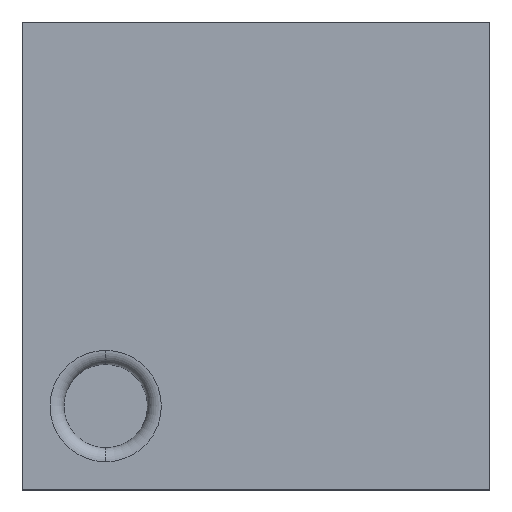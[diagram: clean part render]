
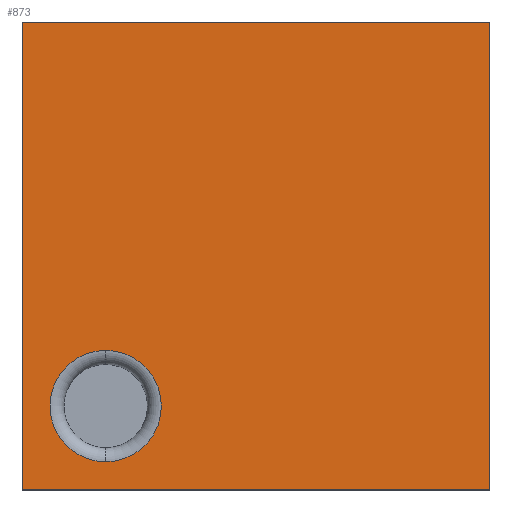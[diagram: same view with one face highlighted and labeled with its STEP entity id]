
A CAD part, top view. The second image highlights one B-rep face of the part: STEP entity #873.
In plain terms, the highlighted planar face has unit normal (0, 0, 1).
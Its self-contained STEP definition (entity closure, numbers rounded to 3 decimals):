
#684 = CARTESIAN_POINT ( 'NONE',  ( -0.54, -0.34, 1. ) ) ;
#685 = VERTEX_POINT ( 'NONE', #684 ) ;
#686 = CARTESIAN_POINT ( 'NONE',  ( -0.54, -0.74, 1. ) ) ;
#687 = VERTEX_POINT ( 'NONE', #686 ) ;
#688 = CARTESIAN_POINT ( 'NONE',  ( -0.54, -0.54, 1. ) ) ;
#689 = DIRECTION ( 'NONE',  ( 0., 0., -1. ) ) ;
#690 = DIRECTION ( 'NONE',  ( 0., -1., 0. ) ) ;
#691 = AXIS2_PLACEMENT_3D ( 'NONE', #688, #689, #690 ) ;
#692 = CIRCLE ( 'NONE', #691, 0.2) ;
#693 = EDGE_CURVE ( 'NONE', #685, #687, #692, .T. ) ;
#738 = CARTESIAN_POINT ( 'NONE',  ( -0.84, -0.84, 1. ) ) ;
#739 = VERTEX_POINT ( 'NONE', #738 ) ;
#746 = CARTESIAN_POINT ( 'NONE',  ( -0.84, 0.84, 1. ) ) ;
#747 = VERTEX_POINT ( 'NONE', #746 ) ;
#748 = CARTESIAN_POINT ( 'NONE',  ( -0.84, -0.84, 1. ) ) ;
#749 = DIRECTION ( 'NONE',  ( 0., -1., 0. ) ) ;
#750 = VECTOR ( 'NONE', #749, 1000. ) ;
#751 = LINE ( 'NONE', #748, #750 ) ;
#752 = EDGE_CURVE ( 'NONE', #747, #739, #751, .T. ) ;
#776 = CARTESIAN_POINT ( 'NONE',  ( 0.84, -0.84, 1. ) ) ;
#777 = VERTEX_POINT ( 'NONE', #776 ) ;
#784 = CARTESIAN_POINT ( 'NONE',  ( 0.84, -0.84, 1. ) ) ;
#785 = DIRECTION ( 'NONE',  ( 1., 0., 0. ) ) ;
#786 = VECTOR ( 'NONE', #785, 1000. ) ;
#787 = LINE ( 'NONE', #784, #786 ) ;
#788 = EDGE_CURVE ( 'NONE', #739, #777, #787, .T. ) ;
#807 = CARTESIAN_POINT ( 'NONE',  ( 0.84, 0.84, 1. ) ) ;
#808 = VERTEX_POINT ( 'NONE', #807 ) ;
#815 = CARTESIAN_POINT ( 'NONE',  ( 0.84, -0.84, 1. ) ) ;
#816 = DIRECTION ( 'NONE',  ( 0., 1., 0. ) ) ;
#817 = VECTOR ( 'NONE', #816, 1000. ) ;
#818 = LINE ( 'NONE', #815, #817 ) ;
#819 = EDGE_CURVE ( 'NONE', #777, #808, #818, .T. ) ;
#837 = CARTESIAN_POINT ( 'NONE',  ( 0.84, 0.84, 1. ) ) ;
#838 = DIRECTION ( 'NONE',  ( -1., 0., 0. ) ) ;
#839 = VECTOR ( 'NONE', #838, 1000. ) ;
#840 = LINE ( 'NONE', #837, #839 ) ;
#841 = EDGE_CURVE ( 'NONE', #808, #747, #840, .T. ) ;
#852 = CARTESIAN_POINT ( 'NONE',  ( -0.54, -0.54, 1. ) ) ;
#853 = DIRECTION ( 'NONE',  ( 0., 0., -1. ) ) ;
#854 = DIRECTION ( 'NONE',  ( 0., -1., 0. ) ) ;
#855 = AXIS2_PLACEMENT_3D ( 'NONE', #852, #853, #854 ) ;
#856 = CIRCLE ( 'NONE', #855, 0.2) ;
#857 = EDGE_CURVE ( 'NONE', #687, #685, #856, .T. ) ;
#858 = ORIENTED_EDGE ( 'NONE', *, *, #857, .T. ) ;
#859 = ORIENTED_EDGE ( 'NONE', *, *, #693, .T. ) ;
#860 = EDGE_LOOP ( 'NONE', ( #858, #859 ) ) ;
#861 = FACE_BOUND ( 'NONE', #860, .T. ) ;
#862 = ORIENTED_EDGE ( 'NONE', *, *, #752, .T. ) ;
#863 = ORIENTED_EDGE ( 'NONE', *, *, #788, .T. ) ;
#864 = ORIENTED_EDGE ( 'NONE', *, *, #819, .T. ) ;
#865 = ORIENTED_EDGE ( 'NONE', *, *, #841, .T. ) ;
#866 = EDGE_LOOP ( 'NONE', ( #862, #863, #864, #865 ) ) ;
#867 = FACE_OUTER_BOUND ( 'NONE', #866, .T. ) ;
#868 = CARTESIAN_POINT ( 'NONE',  ( 0., 0., 1. ) ) ;
#869 = DIRECTION ( 'NONE',  ( 0., 0., 1. ) ) ;
#870 = DIRECTION ( 'NONE',  ( 0., -1., 0. ) ) ;
#871 = AXIS2_PLACEMENT_3D ( 'NONE', #868, #869, #870 ) ;
#872 = PLANE ( 'NONE', #871 ) ;
#873 = ADVANCED_FACE ( 'NONE', ( #861, #867 ), #872, .T. ) ;
